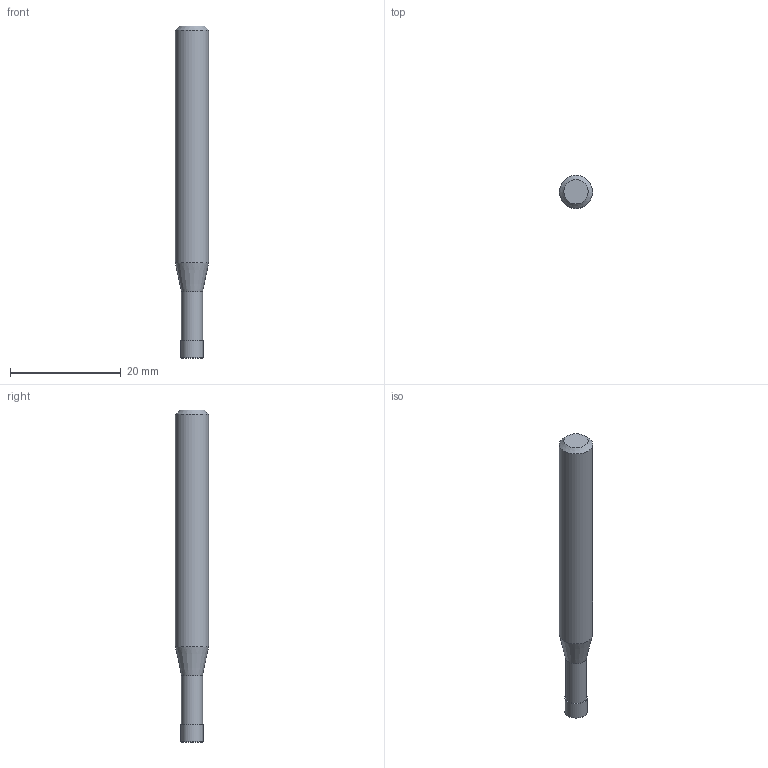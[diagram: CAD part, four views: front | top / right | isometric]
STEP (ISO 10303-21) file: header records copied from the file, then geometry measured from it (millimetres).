
FILE_DESCRIPTION((''),'2;1');
FILE_NAME('C:\Users\nsx150\AppData\Local\Temp\Mastercam 2021\CSMVKW3037\TEMP.step','2023-06-23T16:04:12',(''),(''),'STEP Write','Mastercam 2021 ... CNC Software, Inc.','');
FILE_SCHEMA(('AUTOMOTIVE_DESIGN'));
Length unit declared in the file: millimetre
Products named in the file (1): None
Bounding box: 6 x 6 x 60 mm (x, y, z)
Volume: 1444.6 mm3; surface area: 1088.8 mm2
Topology: 2 solids, 2 shells, 10 faces, 14 edges, 8 vertices
Faces by surface type: plane 4, cylinder 3, cone 2, torus 1
Full cylindrical faces by diameter (mm): 3.8 x1, 4 x1, 6 x1
Entity records: 232 total; most frequent: DIRECTION 40, CARTESIAN_POINT 28, AXIS2_PLACEMENT_3D 20, ORIENTED_EDGE 16, EDGE_LOOP 16, STYLED_ITEM 13, ADVANCED_FACE 10, FACE_BOUND 10
